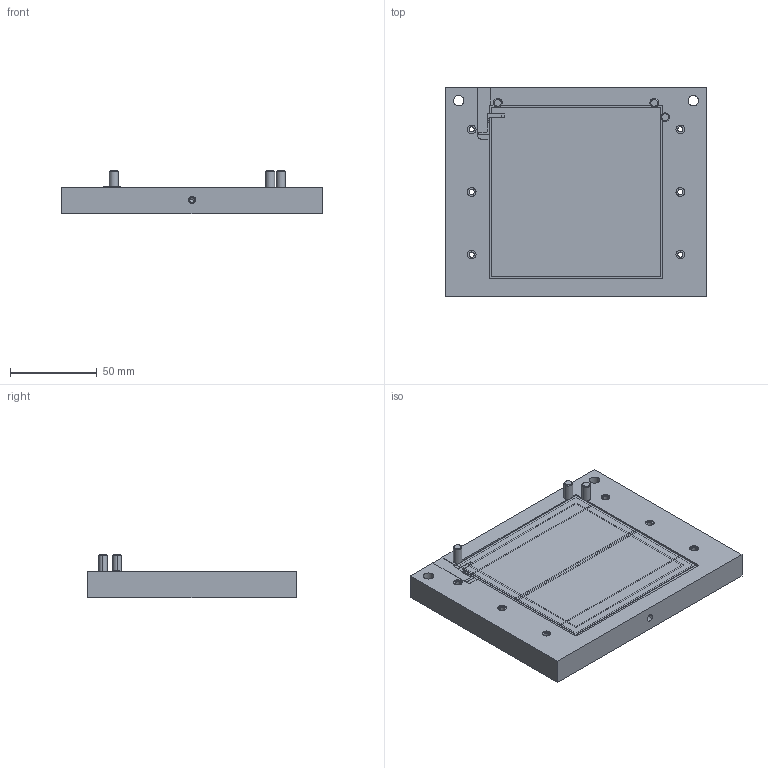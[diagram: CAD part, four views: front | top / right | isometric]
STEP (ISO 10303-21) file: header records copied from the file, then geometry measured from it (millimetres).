
FILE_DESCRIPTION(('CATIA V5 STEP Exchange'),'2;1');
FILE_NAME('D:\CATIA\ATLAS\Atlas_Maarten\atlas_upgrade_maarten\Ass.Module\STP\Outil_2_Phase3.stp','2010-09-02T14:32:02+00:00',('none'),('none'),'CATIA Version 5 Release 18 SP 4 (IN-10)','CATIA V5 STEP AP203','none');
FILE_SCHEMA(('CONFIG_CONTROL_DESIGN'));
Length unit declared in the file: millimetre
Products named in the file (2): Outil_2_Phase3; Detecteur_HV
Assembly tree (7 placements, depth 3):
  Outil_2_Phase3
    #56
    #2792  x3
    Detecteur_HV
      #3024
      #3722
Bounding box: 150 x 120 x 25 mm (x, y, z)
Volume: 270563.5 mm3; surface area: 68118 mm2
Topology: 6 solids, 6 shells, 165 faces, 415 edges, 269 vertices
Faces by surface type: plane 87, cylinder 62, cone 16
Entity records: 4452 total; most frequent: CARTESIAN_POINT 780, ORIENTED_EDGE 770, DIRECTION 623, EDGE_CURVE 385, VECTOR 256, LINE 256, VERTEX_POINT 253, AXIS2_PLACEMENT_3D 247
